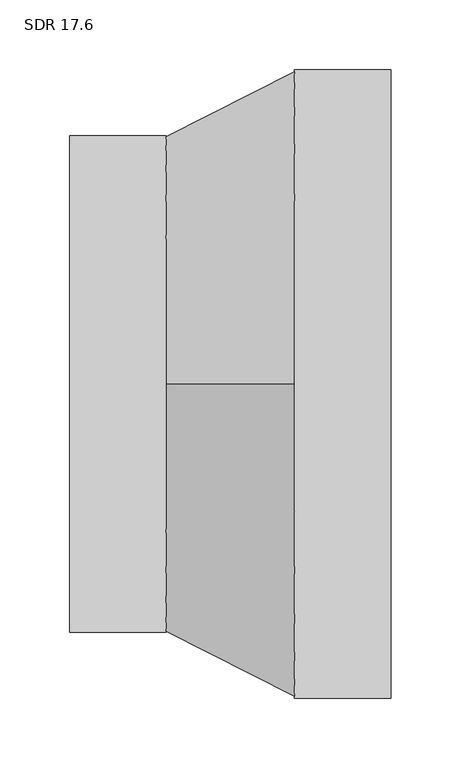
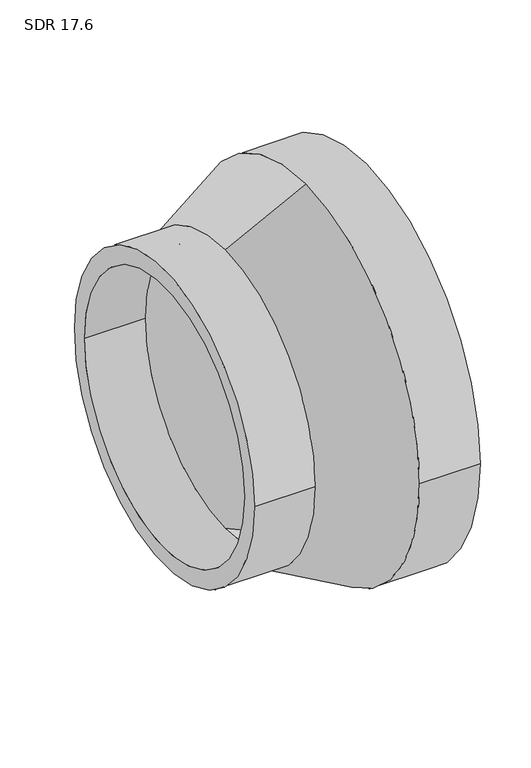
"""IFC4 building model written with IfcOpenShell, lengths in millimetres: pipe fitting geometry, Aquatherm - Reducing Coupling Combined - METRIC : SDR 17.6."""

from ifc_helpers import new_model, si_unit, frame, origin, place, context, project, spatial, polyline, circle_curve, source, transform, mapped, element, save
from ifc_brep_helpers import plane_surface, cylinder_surface, revolved_surface, advanced_brep


def sdr_17_6_30fe1213(model_context):
    return source(origin(), model_context, "Body", "AdvancedBrep", [
        advanced_brep(
        [(-115.062, -177.8, 0.0), (-115.062, 177.8, 0.0), (-115.062, -157.5954545, 0.0), (-115.062, 157.5954545, 0.0), (-46.0248, 157.5954545, 0.0), (-46.0248, 0.0, 157.5954545), (-46.0248, -157.5954545, 0.0), (-46.0248, 0.0, -157.5954545), (-46.0248, 177.8, 0.0), (-46.0248, 0.0, -177.8), (-46.0248, -177.8, 0.0), (-46.0248, 0.0, 177.8), (115.062, -224.79, 0.0), (115.062, 224.79, 0.0), (115.062, -199.2456818, 0.0), (115.062, 199.2456818, 0.0), (46.0248, -224.79, 0.0), (46.0248, 0.0, -224.79), (46.0248, 224.79, 0.0), (46.0248, 0.0, 224.79), (46.0248, -199.2456818, 0.0), (46.0248, 0.0, 199.2456818), (46.0248, 199.2456818, 0.0), (46.0248, 0.0, -199.2456818)],
        [
            (0, 1, circle_curve(frame((-115.062, 0.0, 0.0), z_axis=(-1.0, 0.0, 0.0), x_axis=(0.0, 1.0, 0.0)), 177.8)),
            (1, 0, circle_curve(frame((-115.062, 0.0, 0.0), z_axis=(-1.0, 0.0, 0.0), x_axis=(0.0, 1.0, 0.0)), 177.8)),
            (2, 3, circle_curve(frame((-115.062, 0.0, 0.0), z_axis=(1.0, 0.0, 0.0), x_axis=(0.0, 1.0, 0.0)), 157.5954545)),
            (3, 2, circle_curve(frame((-115.062, 0.0, 0.0), z_axis=(1.0, 0.0, 0.0), x_axis=(0.0, 1.0, 0.0)), 157.5954545)),
            (3, 4),
            (4, 5, circle_curve(frame((-46.0248, 0.0, 0.0), z_axis=(1.0, 0.0, 0.0), x_axis=(0.0, 1.0, 0.0)), 157.5954545)),
            (5, 6, circle_curve(frame((-46.0248, 0.0, 0.0), z_axis=(1.0, 0.0, 0.0), x_axis=(0.0, 1.0, 0.0)), 157.5954545)),
            (6, 2),
            (6, 7, circle_curve(frame((-46.0248, 0.0, 0.0), z_axis=(1.0, 0.0, 0.0), x_axis=(0.0, 1.0, 0.0)), 157.5954545)),
            (7, 4, circle_curve(frame((-46.0248, 0.0, 0.0), z_axis=(1.0, 0.0, 0.0), x_axis=(0.0, 1.0, 0.0)), 157.5954545)),
            (1, 8),
            (8, 9, circle_curve(frame((-46.0248, 0.0, 0.0), z_axis=(-1.0, 0.0, 0.0), x_axis=(0.0, 1.0, 0.0)), 177.8)),
            (9, 10, circle_curve(frame((-46.0248, 0.0, 0.0), z_axis=(-1.0, 0.0, 0.0), x_axis=(0.0, 1.0, 0.0)), 177.8)),
            (10, 0),
            (10, 11, circle_curve(frame((-46.0248, 0.0, 0.0), z_axis=(-1.0, 0.0, 0.0), x_axis=(0.0, 1.0, 0.0)), 177.8)),
            (11, 8, circle_curve(frame((-46.0248, 0.0, 0.0), z_axis=(-1.0, 0.0, 0.0), x_axis=(0.0, 1.0, 0.0)), 177.8)),
            (12, 13, circle_curve(frame((115.062, 0.0, 0.0), z_axis=(1.0, 0.0, 0.0), x_axis=(0.0, 1.0, 0.0)), 224.79)),
            (13, 12, circle_curve(frame((115.062, 0.0, 0.0), z_axis=(1.0, 0.0, 0.0), x_axis=(0.0, 1.0, 0.0)), 224.79)),
            (14, 15, circle_curve(frame((115.062, 0.0, 0.0), z_axis=(-1.0, 0.0, 0.0), x_axis=(0.0, 1.0, 0.0)), 199.2456818)),
            (15, 14, circle_curve(frame((115.062, 0.0, 0.0), z_axis=(-1.0, 0.0, 0.0), x_axis=(0.0, 1.0, 0.0)), 199.2456818)),
            (12, 16),
            (16, 17, circle_curve(frame((46.0248, 0.0, 0.0), z_axis=(1.0, 0.0, 0.0), x_axis=(0.0, 1.0, 0.0)), 224.79)),
            (17, 18, circle_curve(frame((46.0248, 0.0, 0.0), z_axis=(1.0, 0.0, 0.0), x_axis=(0.0, 1.0, 0.0)), 224.79)),
            (18, 13),
            (18, 19, circle_curve(frame((46.0248, 0.0, 0.0), z_axis=(1.0, 0.0, 0.0), x_axis=(0.0, 1.0, 0.0)), 224.79)),
            (19, 16, circle_curve(frame((46.0248, 0.0, 0.0), z_axis=(1.0, 0.0, 0.0), x_axis=(0.0, 1.0, 0.0)), 224.79)),
            (14, 20),
            (20, 21, circle_curve(frame((46.0248, 0.0, 0.0), z_axis=(-1.0, 0.0, 0.0), x_axis=(0.0, 1.0, 0.0)), 199.2456818)),
            (21, 22, circle_curve(frame((46.0248, 0.0, 0.0), z_axis=(-1.0, 0.0, 0.0), x_axis=(0.0, 1.0, 0.0)), 199.2456818)),
            (22, 15),
            (22, 23, circle_curve(frame((46.0248, 0.0, 0.0), z_axis=(-1.0, 0.0, 0.0), x_axis=(0.0, 1.0, 0.0)), 199.2456818)),
            (23, 20, circle_curve(frame((46.0248, 0.0, 0.0), z_axis=(-1.0, 0.0, 0.0), x_axis=(0.0, 1.0, 0.0)), 199.2456818)),
            (11, 19),
            (17, 9),
            (21, 5),
            (7, 23),
        ],
        [
            plane_surface(frame((-115.062, 157.5954545, 0.0), z_axis=(-1.0, 0.0, 0.0), x_axis=(0.0, 0.0, 1.0))),
            revolved_surface(polyline([(-115.062, 157.5954545, 0.0), (-46.0248, 157.5954545, 0.0)]), (-115.062, 0.0, 0.0), (-1.0, 0.0, 0.0)),
            cylinder_surface(frame((0.0, 0.0, 0.0), z_axis=(1.0, 0.0, 0.0), x_axis=(0.0, 1.0, 0.0)), 177.8),
            plane_surface(frame((115.062, 224.79, 0.0), z_axis=(1.0, 0.0, 0.0), x_axis=(0.0, 0.0, 1.0))),
            cylinder_surface(frame((46.0248, 0.0, 0.0), z_axis=(1.0, 0.0, 0.0), x_axis=(0.0, 1.0, 0.0)), 224.79),
            revolved_surface(polyline([(46.0248, 199.2456818, 0.0), (115.062, 199.2456818, 0.0)]), (0.0, 0.0, 0.0), (-1.0, 0.0, 0.0)),
            revolved_surface(polyline([(46.0248, 0.0, 224.79), (-46.0248, 0.0, 177.8)]), (-690.3215384, 0.0, 0.0), (-1.0, 0.0, 0.0)),
            revolved_surface(polyline([(-46.0248, 0.0, 157.5954545), (46.0248, 0.0, 199.2456818)]), (-690.3215384, 0.0, 0.0), (-1.0, 0.0, 0.0)),
        ],
        [
            (0, [[1, 2], [3, 4]]),
            (1, [[-4, 5, 6, 7, 8]]),
            (1, [[-3, -8, 9, 10, -5]]),
            (2, [[-2, 11, 12, 13, 14]]),
            (2, [[-1, -14, 15, 16, -11]]),
            (3, [[17, 18], [19, 20]]),
            (4, [[-17, 21, 22, 23, 24]]),
            (4, [[-18, -24, 25, 26, -21]]),
            (5, [[-19, 27, 28, 29, 30]]),
            (5, [[-20, -30, 31, 32, -27]]),
            (6, [[33, -25, -23, 34, -12, -16]]),
            (6, [[-33, -15, -13, -34, -22, -26]]),
            (7, [[35, -6, -10, 36, -31, -29]]),
            (7, [[-35, -28, -32, -36, -9, -7]]),
        ],
    ),
    ])


if __name__ == "__main__":
    model = new_model("IFC4")
    model_context = context("Model", 3, world=origin())
    ifc_project = project(units=[si_unit("LENGTHUNIT", "METRE", prefix="MILLI")], contexts=[model_context])
    site = spatial("IfcSite", under=ifc_project)
    building = spatial("IfcBuilding", under=site)
    placement = place(None, origin())
    sdr_17_6_shape = sdr_17_6_30fe1213(model_context)
    element("IfcPipeFitting", 1, ObjectType="Aquatherm - Reducing Coupling Combined - METRIC : SDR 17.6", at=placement, inside=building, context=model_context, shape_type="MappedRepresentation", body=[
        mapped(sdr_17_6_shape, transform((0.0, 0.0, 0.0), x_axis=(1.0, 0.0, 0.0), y_axis=(0.0, 1.0, 0.0), z_axis=(0.0, 0.0, 1.0))),
    ])
    save(model, "model.ifc")
